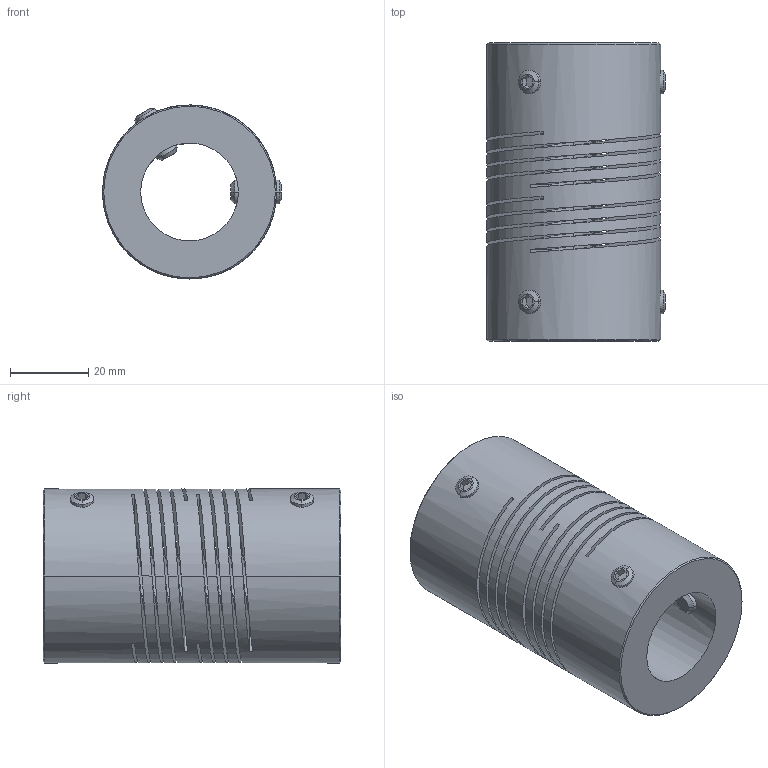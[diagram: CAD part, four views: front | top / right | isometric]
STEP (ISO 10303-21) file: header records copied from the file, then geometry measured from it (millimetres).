
FILE_DESCRIPTION((''),'2;1');
FILE_NAME('722_44_ASM','2006-12-05T',('Gary Melling'),(''),'PRO/ENGINEER BY PARAMETRIC TECHNOLOGY CORPORATION, 2006240','PRO/ENGINEER BY PARAMETRIC TECHNOLOGY CORPORATION, 2006240','');
FILE_SCHEMA(('CONFIG_CONTROL_DESIGN'));
Length unit declared in the file: millimetre
Products named in the file (3): 722_44; GS_6; 722_44_ASM
Assembly tree (5 placements, depth 2):
  722_44_ASM
    722_44
    GS_6  x4
Bounding box: 45.75 x 76.2 x 44.5 mm (x, y, z)
Volume: 73203.9 mm3; surface area: 36057.3 mm2
Topology: 5 solids, 5 shells, 130 faces, 358 edges, 228 vertices
Faces by surface type: plane 52, cylinder 46, cone 20, bspline 12
Entity records: 5340 total; most frequent: CARTESIAN_POINT 3087, ORIENTED_EDGE 524, DIRECTION 348, EDGE_CURVE 262, VERTEX_POINT 168, VECTOR 130, LINE 130, AXIS2_PLACEMENT_3D 109
